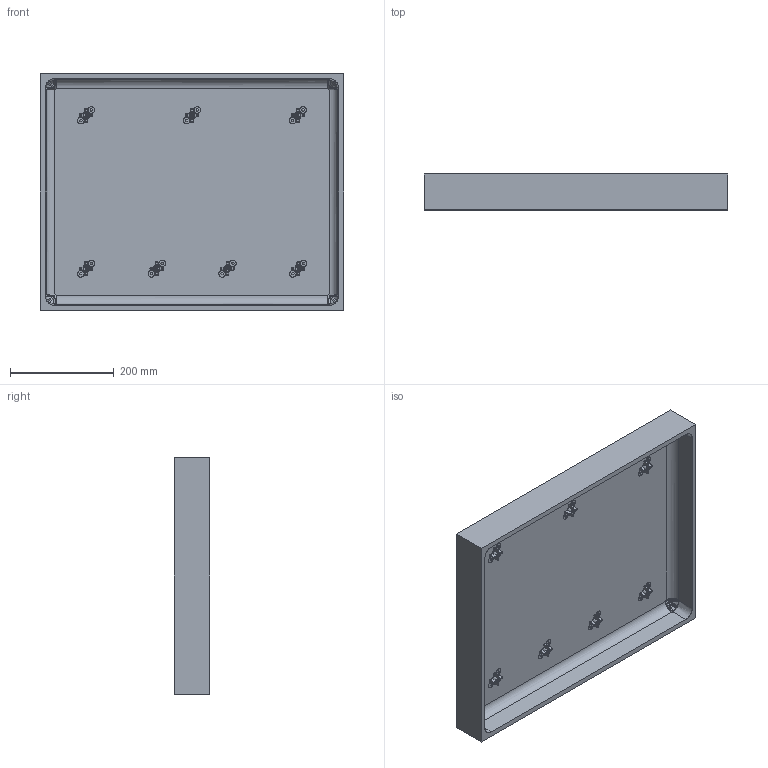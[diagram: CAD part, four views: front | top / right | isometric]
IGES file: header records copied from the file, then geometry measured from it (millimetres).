
Start section: SolidWorks IGES file using analytic representation for surfaces
Global section: file name: C:\temp\EU files dimensions 12-14-15\New folder\1610 EU.IGS; native system: SolidWorks 2016; preprocessor: SolidWorks 2016; author: mhakami; date: 160229.111359; units: inch
Bounding box: 585.21 x 68.58 x 456.43 mm (x, y, z)
Surface area: 1371627 mm2 (no closed solid volume)
Topology: 0 solids, 0 shells, 1128 faces, 10604 edges, 10600 vertices
Faces by surface type: bspline 696, revolution 432
